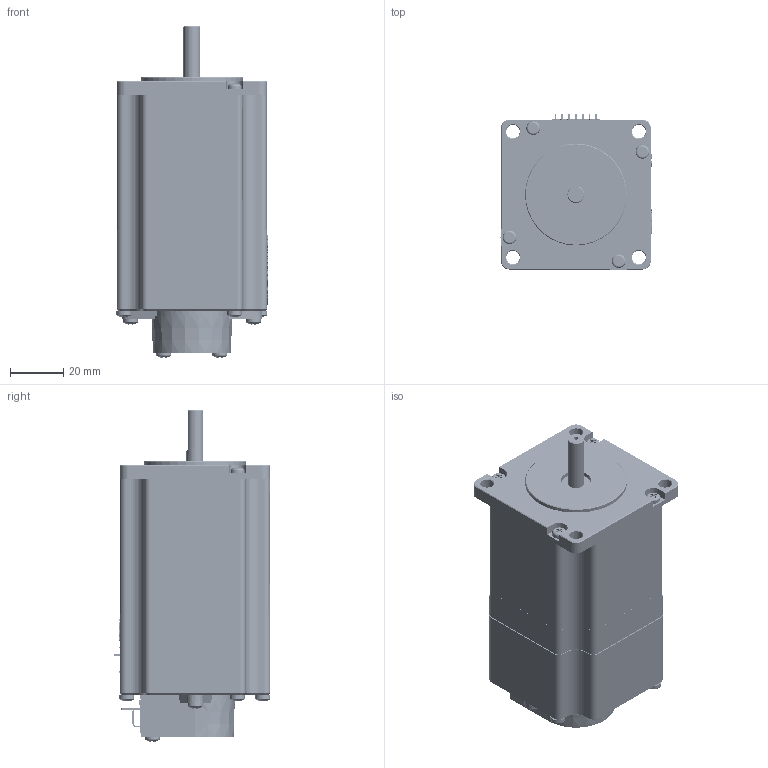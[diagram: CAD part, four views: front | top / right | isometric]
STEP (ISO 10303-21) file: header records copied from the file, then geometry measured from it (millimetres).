
FILE_DESCRIPTION (( 'STEP AP214' ), '1' );
FILE_NAME ('23MSD with E2 Series.STEP', '2016-11-15T19:07:10', ( '' ), ( '' ), 'SwSTEP 2.0', 'SolidWorks 2016', '' );
FILE_SCHEMA (( 'AUTOMOTIVE_DESIGN' ));
Length unit declared in the file: millimetre
Products named in the file (8): Pan Cross Head_AI_CR-PHMS 0.112-40x0.375x0.375-S; E2-XXX-250-X-H-G; pan cross head_am_B18.6.7M - M3 x 0.5 x 30 Type I Cross Recessed PHMS --30S; Pan Cross Head_AI_CR-PHMS 0.112-40x0.25x0.25-S; 23MSD cover; PCBAA6722; 23YX06X-LW4-01 Series_23Y106D-LW4-01; 23MSD with E2 Series
Assembly tree (12 placements, depth 2):
  23MSD with E2 Series
    23YX06X-LW4-01 Series_23Y106D-LW4-01
    PCBAA6722
    23MSD cover
    Pan Cross Head_AI_CR-PHMS 0.112-40x0.25x0.25-S  x2
    pan cross head_am_B18.6.7M - M3 x 0.5 x 30 Type I Cross Recessed PHMS --30S  x4
    E2-XXX-250-X-H-G
    Pan Cross Head_AI_CR-PHMS 0.112-40x0.375x0.375-S  x2
Bounding box: 56.6 x 58.75 x 124.34 mm (x, y, z)
Volume: 204519.6 mm3; surface area: 58744.4 mm2
Topology: 23 solids, 23 shells, 4469 faces, 11721 edges, 7487 vertices
Faces by surface type: cone 1448, plane 1386, cylinder 993, bspline 573, torus 47, sphere 22
Entity records: 152568 total; most frequent: CARTESIAN_POINT 48733, ORIENTED_EDGE 16454, DIRECTION 14471, EDGE_CURVE 8227, VERTEX_POINT 5313, AXIS2_PLACEMENT_3D 4828, LINE 4815, VECTOR 4815
